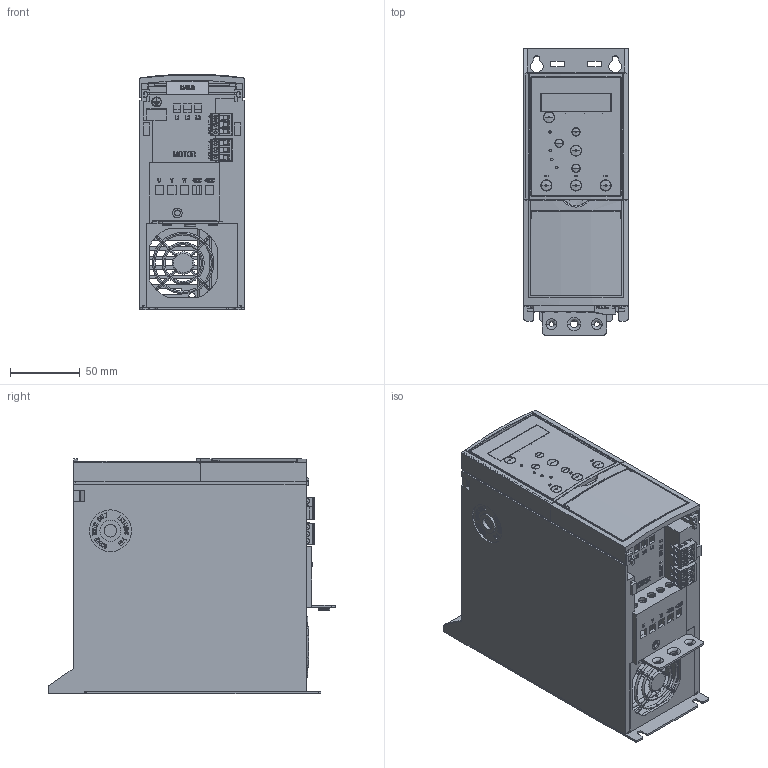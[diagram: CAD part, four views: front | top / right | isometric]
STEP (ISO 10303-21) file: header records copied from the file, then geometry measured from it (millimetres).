
FILE_DESCRIPTION((''),'2;1');
FILE_NAME('H1-IP20-2_ASM','2013-05-13T',('U248342'),('Danfoss Power Electronics'),'PRO/ENGINEER BY PARAMETRIC TECHNOLOGY CORPORATION, 2011490','PRO/ENGINEER BY PARAMETRIC TECHNOLOGY CORPORATION, 2011490','');
FILE_SCHEMA(('CONFIG_CONTROL_DESIGN', 'GEOMETRIC_VALIDATION_PROPERTIES_MIM'));
Products named in the file (16): 132B4111; 132B3405; 132B3400; 132B4121; 132B4148_UMSH-8244JN-F; LCD_LIGHTGUIDE_ASM; 132B4142; 132B4144; 132B9105_ASM; 132B4132; 132B4116; 132B5734; 132B5734_ASM; 132B5733; 132B5733_ASM; H1-IP20-2_ASM
Assembly tree (15 placements, depth 4):
  H1-IP20-2_ASM
    132B4111
    132B3405
    132B3400
    132B4121
    132B9105_ASM
      LCD_LIGHTGUIDE_ASM
        132B4148_UMSH-8244JN-F
      132B4142
      132B4144
    132B4132
    132B4116
    132B5734_ASM
      132B5734
    132B5733_ASM
      132B5733
Bounding box: 75 x 205 x 168.18 mm (x, y, z)
Volume: 304305.5 mm3; surface area: 318740.7 mm2
Topology: 11 solids, 12 shells, 4160 faces, 11578 edges, 7596 vertices
Faces by surface type: plane 3546, cylinder 466, torus 84, bspline 62, cone 2
Entity records: 174735 total; most frequent: CARTESIAN_POINT 28571, ORIENTED_EDGE 23140, DIRECTION 20877, PRESENTATION_STYLE_ASSIGNMENT 11746, EDGE_CURVE 11578, STYLED_ITEM 11216, CURVE_STYLE 11205, VECTOR 10217
